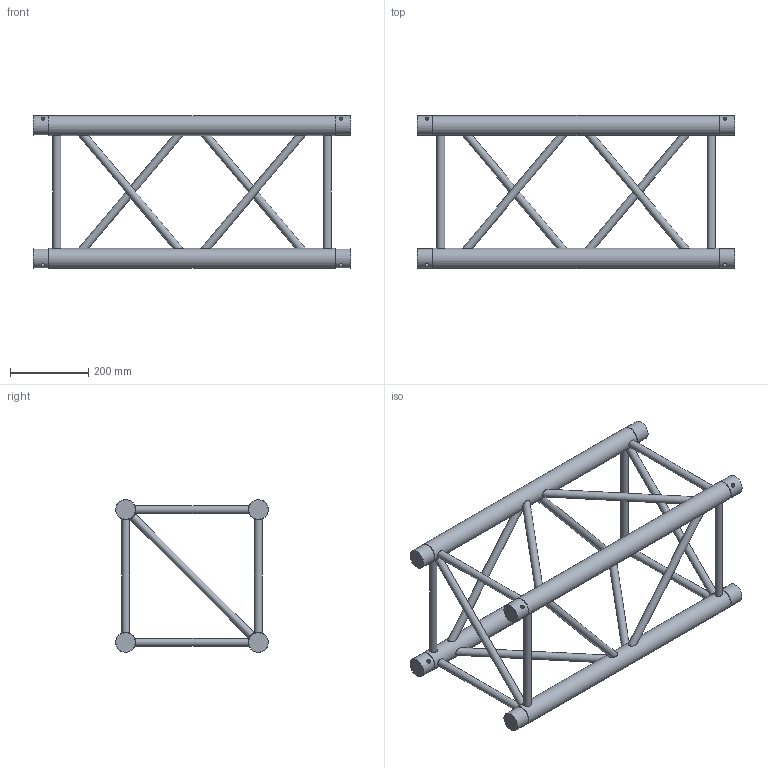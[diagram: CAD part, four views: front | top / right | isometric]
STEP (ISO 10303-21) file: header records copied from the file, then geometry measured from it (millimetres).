
FILE_DESCRIPTION(/* description */ (''),/* implementation_level */ '2;1');
FILE_NAME(/* name */ 'M:\Symbolen\STP\40-er truss\111080193.stp',/* time_stamp */ '2015-02-26T15:17:07+01:00',/* author */ ('Stephan'),/* organization */ (''),/* preprocessor_version */ 'ST-DEVELOPER v15.6',/* originating_system */ 'Autodesk Inventor 2015',/* authorisation */ '');
FILE_SCHEMA (('AUTOMOTIVE_DESIGN { 1 0 10303 214 3 1 1 }'));
Length unit declared in the file: millimetre
Products named in the file (1): 160023952
Bounding box: 810 x 389.98 x 389.98 mm (x, y, z)
Volume: 5150210.8 mm3; surface area: 948203 mm2
Topology: 6 solids, 22 shells, 130 faces, 226 edges, 140 vertices
Faces by surface type: plane 84, cylinder 38, cone 8
Full cylindrical faces by diameter (mm): 10 x8, 20 x18, 49.5 x8, 51 x4
Entity records: 3673 total; most frequent: CARTESIAN_POINT 987, DIRECTION 494, ORIENTED_EDGE 392, EDGE_LOOP 232, AXIS2_PLACEMENT_3D 231, EDGE_CURVE 164, STYLED_ITEM 133, VERTEX_POINT 132
